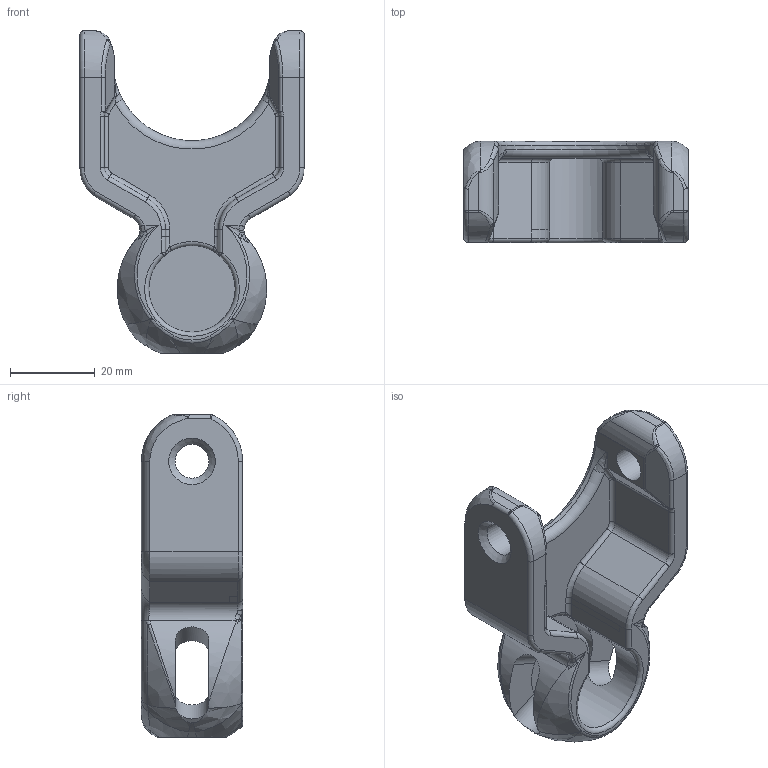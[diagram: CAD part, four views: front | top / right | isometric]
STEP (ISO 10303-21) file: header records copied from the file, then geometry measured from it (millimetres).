
FILE_DESCRIPTION(/* description */ (''),/* implementation_level */ '2;1');
FILE_NAME(/* name */ '1704_3.stp',/* time_stamp */ '2025-12-19T12:43:46+01:00',/* author */ ('ManuelGarciaPrieto'),/* organization */ (''),/* preprocessor_version */ 'ST-DEVELOPER v20',/* originating_system */ 'Autodesk Inventor 2025',/* authorisation */ '');
FILE_SCHEMA (('AUTOMOTIVE_DESIGN { 1 0 10303 214 3 1 1 }'));
Length unit declared in the file: millimetre
Products named in the file (1): 1704_2
Bounding box: 53 x 23.9 x 76.2 mm (x, y, z)
Volume: 27425.8 mm3; surface area: 12493.5 mm2
Topology: 1 solids, 1 shells, 226 faces, 562 edges, 332 vertices
Faces by surface type: cylinder 76, bspline 67, plane 37, torus 30, sphere 14, cone 2
Full cylindrical faces by diameter (mm): 8 x2
Entity records: 10181 total; most frequent: CARTESIAN_POINT 5161, ORIENTED_EDGE 1116, DIRECTION 962, EDGE_CURVE 558, AXIS2_PLACEMENT_3D 407, VERTEX_POINT 332, EDGE_LOOP 232, FACE_OUTER_BOUND 226
